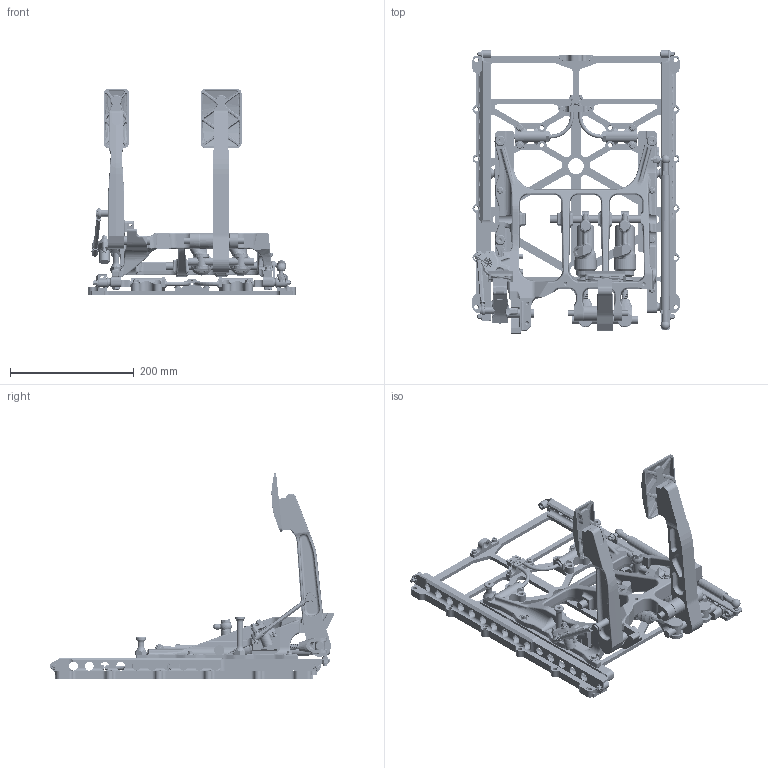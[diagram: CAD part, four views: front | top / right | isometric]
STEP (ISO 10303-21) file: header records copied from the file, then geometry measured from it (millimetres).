
FILE_DESCRIPTION(/* description */ ('Unknown'),/* implementation_level */ '2;1');
FILE_NAME(/* name */ '72-851 TILTON PEDAL SET, SIMPLE',/* time_stamp */ '2018-12-10T10:47:07-08:00',/* author */ ('Unknown'),/* organization */ ('Unknown'),/* preprocessor_version */ 'ST-DEVELOPER v16.7',/* originating_system */ 'DEX',/* authorisation */ $);
FILE_SCHEMA (('AUTOMOTIVE_DESIGN {1 0 10303 214 3 1 1}'));
Products named in the file (1): 72-851 TILTON PEDAL SET, SIMPLE
Bounding box: 334.74 x 459.13 x 332.84 mm (x, y, z)
Volume: 2056056.5 mm3; surface area: 618719.1 mm2
Topology: 23 solids, 23 shells, 8690 faces, 23497 edges, 15178 vertices
Faces by surface type: plane 4028, cylinder 2283, bspline 1136, cone 930, torus 193, sphere 120
Full cylindrical faces by diameter (mm): 1.194 x12, 1.575 x4, 1.587 x4, 1.93 x4, 2.032 x4, 2.87 x2, 3 x6, 3.175 x1, 3.18 x2, 3.307 x2, 3.581 x2, 3.68 x6, 3.967 x24, 4.165 x2, 4.368 x5, 4.419 x2, 4.775 x28, 4.825 x4, 4.826 x8, 4.88 x2, 4.975 x7, 4.976 x2, 4.977 x1, 5.079 x5, 5.08 x3, 5.105 x4, 5.232 x1, 5.308 x2, 5.366 x1, 5.367 x1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
Entity records: 425698 total; most frequent: CARTESIAN_POINT 172363, ORIENTED_EDGE 41916, DIRECTION 35048, EDGE_CURVE 20958, VERTEX_POINT 14093, AXIS2_PLACEMENT_3D 13094, FACE_BOUND 10659, EDGE_LOOP 10614
